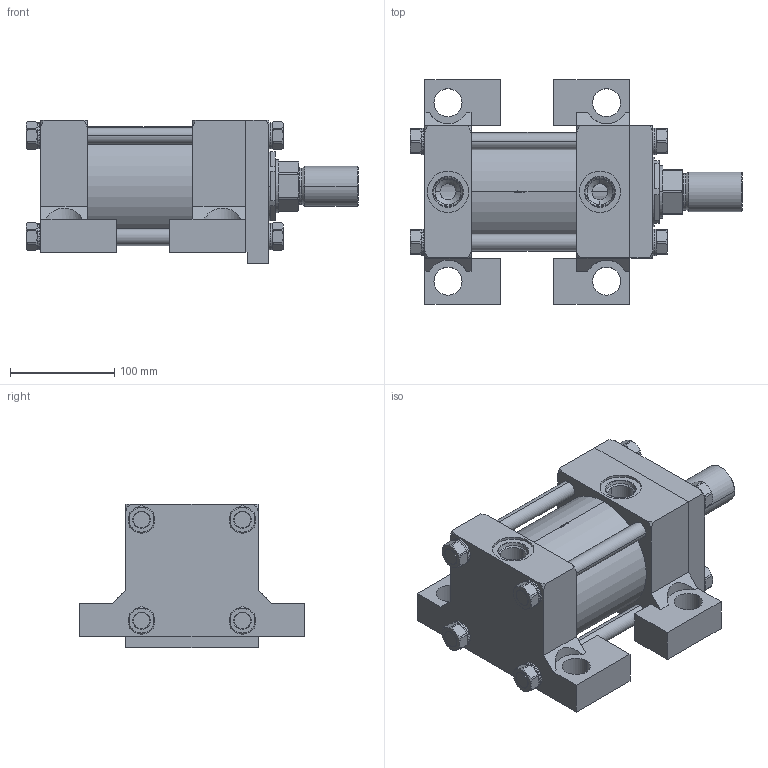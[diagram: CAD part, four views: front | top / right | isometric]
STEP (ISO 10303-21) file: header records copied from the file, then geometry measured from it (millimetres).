
FILE_DESCRIPTION (( 'STEP AP214' ), '1' );
FILE_NAME ('4.00CP2HHNAT134A2.000.step', '2026-03-26T21:16:02', ( '' ), ( '' ), 'SwSTEP 2.0', 'SolidWorks 2023', '' );
FILE_SCHEMA (( 'AUTOMOTIVE_DESIGN' ));
Length unit declared in the file: inch
Products named in the file (1): 4.00CP2HHNAT134A2.000
Bounding box: 319.09 x 215.9 x 138.11 mm (x, y, z)
Volume: 3125166.7 mm3; surface area: 499437.7 mm2
Topology: 44 solids, 44 shells, 1220 faces, 3148 edges, 2024 vertices
Faces by surface type: plane 808, cylinder 221, cone 161, bspline 22, torus 8
Entity records: 54976 total; most frequent: CARTESIAN_POINT 10659, ORIENTED_EDGE 6296, DIRECTION 5224, EDGE_CURVE 3148, VERTEX_POINT 2024, AXIS2_PLACEMENT_3D 1773, VECTOR 1678, LINE 1678
